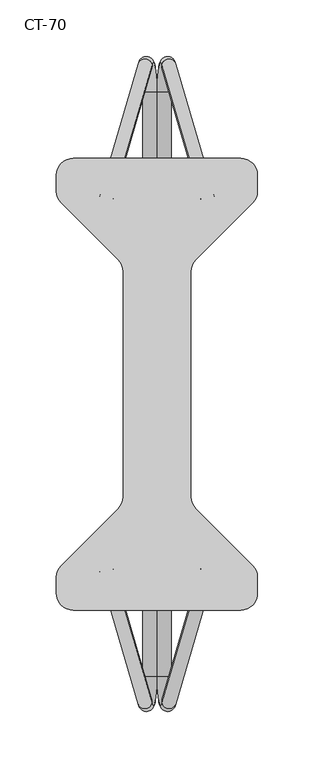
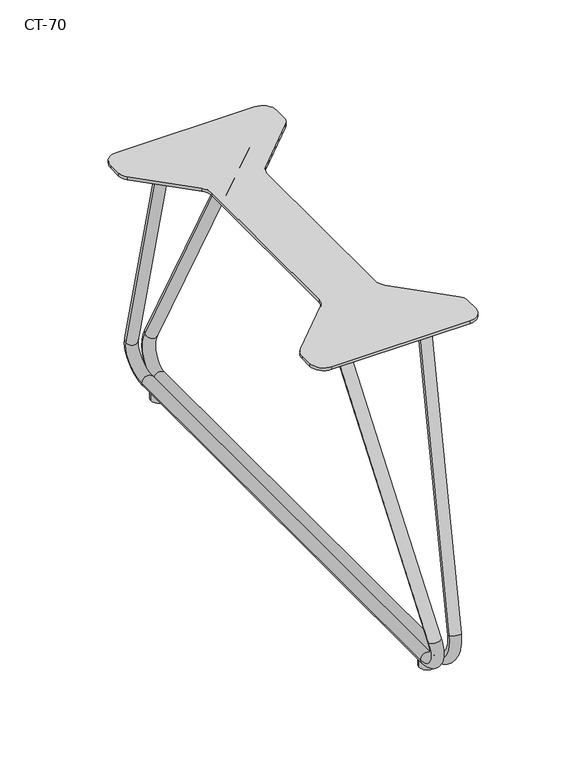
"""IFC4 building model written with IfcOpenShell, lengths in millimetres: furniture geometry, Davis_Furniture-Cantina-Backless_Bench_End : CT-70."""

from ifc_helpers import new_model, si_unit, point, frame, frame_2d, origin, origin_with_axes, place, context, project, spatial, polyline, circle_curve, ellipse_curve, trimmed, segment, composite_curve, outline, extrude, source, transform, mapped, element, save
from ifc_brep_helpers import plane_surface, cylinder_surface, revolved_surface, advanced_brep


def ct_70_d8ba06b4(model_context):
    return source(origin(), model_context, "Body", "SolidModel", [
        advanced_brep(
        [(347.2476455, 282.4506802, 51.3019909), (359.6863293, 281.0225001, 49.1737411), (394.2568189, 162.5458754, 330.7277844), (381.5568189, 164.8696131, 330.7277844), (342.8955294, 258.6649172, 15.8568497), (355.5955294, 258.6649172, 15.8568497), (342.8955294, -258.6649172, 15.8568497), (355.5955294, -258.6649172, 15.8568497), (347.2476455, -282.4506802, 51.3019909), (359.6863293, -281.0225001, 49.1737411), (381.5568189, -164.8696131, 330.7277844), (394.2568189, -162.5458754, 330.7277844)],
        [
            (0, 1, circle_curve(frame((353.4669874, 281.7365901, 50.237866), z_axis=(0.112455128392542, -0.3853952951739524, 0.9158735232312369), x_axis=(-0.9794239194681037, 0.11245512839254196, 0.16757872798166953)), 6.35)),
            (1, 2),
            (2, 3, ellipse_curve(frame((387.9068189, 163.7077443, 330.7277844), z_axis=(0.0, 0.0, -1.0), x_axis=(0.28011057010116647, -0.9599677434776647, 0.0)), 6.9332717, 6.35)),
            (3, 0),
            (1, 0, circle_curve(frame((353.4669874, 281.7365901, 50.237866), z_axis=(0.112455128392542, -0.3853952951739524, 0.9158735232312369), x_axis=(-0.9794239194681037, 0.11245512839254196, 0.16757872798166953)), 6.35)),
            (3, 2, ellipse_curve(frame((387.9068189, 163.7077443, 330.7277844), z_axis=(0.0, 0.0, -1.0), x_axis=(0.28011057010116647, -0.9599677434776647, 0.0)), 6.9332717, 6.35)),
            (0, 4, circle_curve(frame((346.0369549, 258.6649172, 41.4417072), z_axis=(-0.9925461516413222, 0.0, 0.12186934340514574), x_axis=(0.046967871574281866, 0.9227515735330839, 0.38252261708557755)), 25.7769953)),
            (4, 5, circle_curve(frame((349.2455294, 258.6649172, 15.8568497), z_axis=(0.0, 1.0, 0.0), x_axis=(-1.0, 0.0, 0.0)), 6.35)),
            (5, 1, circle_curve(frame((358.5483328, 258.6649172, 39.9055032), z_axis=(0.9925461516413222, 0.0, -0.12186934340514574), x_axis=(0.046967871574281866, 0.9227515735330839, 0.38252261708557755)), 24.2292547)),
            (5, 4, circle_curve(frame((349.2455294, 258.6649172, 15.8568497), z_axis=(0.0, 0.9999999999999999, 0.0), x_axis=(-1.0, 0.0, 0.0)), 6.35)),
            (4, 6),
            (6, 7, circle_curve(frame((349.2455294, -258.6649172, 15.8568497), z_axis=(0.0, 1.0, 0.0), x_axis=(-1.0, 0.0, 0.0)), 6.35)),
            (7, 5),
            (7, 6, circle_curve(frame((349.2455294, -258.6649172, 15.8568497), z_axis=(0.0, 1.0, 0.0), x_axis=(-1.0, 0.0, 0.0)), 6.35)),
            (6, 8, circle_curve(frame((346.0369549, -258.6649172, 41.4417072), z_axis=(-0.9925461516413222, 0.0, 0.12186934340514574), x_axis=(-0.12186934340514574, 0.0, -0.9925461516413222)), 25.7769953)),
            (8, 9, circle_curve(frame((353.4669874, -281.7365901, 50.237866), z_axis=(-0.11245512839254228, -0.3853952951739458, -0.9158735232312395), x_axis=(-0.9794239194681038, -0.1124551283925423, 0.16757872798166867)), 6.35)),
            (9, 7, circle_curve(frame((358.5483328, -258.6649172, 39.9055032), z_axis=(0.9925461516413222, 0.0, -0.12186934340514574), x_axis=(-0.12186934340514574, 0.0, -0.9925461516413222)), 24.2292547)),
            (9, 8, circle_curve(frame((353.4669874, -281.7365901, 50.237866), z_axis=(-0.11245512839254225, -0.3853952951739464, -0.9158735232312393), x_axis=(-0.9794239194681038, -0.11245512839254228, 0.16757872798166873)), 6.35)),
            (8, 10),
            (10, 11, ellipse_curve(frame((387.9068189, -163.7077443, 330.7277844), z_axis=(0.0, 0.0, -1.0), x_axis=(-0.28011057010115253, -0.9599677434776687, 0.0)), 6.9332717, 6.35)),
            (11, 9),
            (11, 10, ellipse_curve(frame((387.9068189, -163.7077443, 330.7277844), z_axis=(0.0, 0.0, -1.0), x_axis=(-0.28011057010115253, -0.9599677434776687, 0.0)), 6.9332717, 6.35)),
        ],
        [
            cylinder_surface(frame((389.0405198, 159.8224344, 339.9610379), z_axis=(0.112455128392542, -0.3853952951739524, 0.9158735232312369), x_axis=(-0.9794239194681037, 0.11245512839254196, 0.16757872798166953)), 6.35),
            revolved_surface(trimmed(ellipse_curve(frame((353.4669874, 281.7365901, 50.237866), z_axis=(0.11245512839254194, -0.38539529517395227, 0.9158735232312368), x_axis=(-0.9794239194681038, 0.112455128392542, 0.1675787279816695)), 6.35, 6.35), [point((347.2476455, 282.4506802, 51.3019909))], [point((359.6863293, 281.0225001, 49.1737411))], True, "CARTESIAN"), (405.2582375, 258.6649172, 34.170248), (-0.9925461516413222, 0.0, 0.12186934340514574)),
            revolved_surface(trimmed(ellipse_curve(frame((353.4669874, 281.7365901, 50.237866), z_axis=(0.11245512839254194, -0.38539529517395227, 0.9158735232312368), x_axis=(-0.9794239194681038, 0.112455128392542, 0.1675787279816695)), 6.35, 6.35), [point((359.6863293, 281.0225001, 49.1737411))], [point((347.2476455, 282.4506802, 51.3019909))], True, "CARTESIAN"), (405.2582375, 258.6649172, 34.170248), (-0.9925461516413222, 0.0, 0.12186934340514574)),
            cylinder_surface(frame((349.2455294, 258.6649172, 15.8568497), z_axis=(0.0, 1.0, 0.0), x_axis=(-1.0, 0.0, 0.0)), 6.35),
            revolved_surface(trimmed(ellipse_curve(frame((349.2455294, -258.6649172, 15.8568497), z_axis=(0.0, 1.0, 0.0), x_axis=(-1.0, 0.0, 0.0)), 6.35, 6.35), [point((342.8955294, -258.6649172, 15.8568497))], [point((355.5955294, -258.6649172, 15.8568497))], True, "CARTESIAN"), (405.2582375, -258.6649172, 34.170248), (-0.9925461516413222, 0.0, 0.12186934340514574)),
            revolved_surface(trimmed(ellipse_curve(frame((349.2455294, -258.6649172, 15.8568497), z_axis=(0.0, 1.0, 0.0), x_axis=(-1.0, 0.0, 0.0)), 6.35, 6.35), [point((355.5955294, -258.6649172, 15.8568497))], [point((342.8955294, -258.6649172, 15.8568497))], True, "CARTESIAN"), (405.2582375, -258.6649172, 34.170248), (-0.9925461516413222, 0.0, 0.12186934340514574)),
            cylinder_surface(frame((353.4669874, -281.7365901, 50.237866), z_axis=(-0.11245512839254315, -0.38539529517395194, -0.9158735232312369), x_axis=(-0.9794239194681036, -0.11245512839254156, 0.1675787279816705)), 6.35),
            plane_surface(frame((282.575, -184.15, 330.7277844), z_axis=(0.0, 0.0, 1.0), x_axis=(0.0, 1.0, 0.0))),
        ],
        [
            (0, [[1, 2, 3, 4]]),
            (0, [[5, -4, 6, -2]]),
            (1, [[-1, 7, 8, 9]]),
            (2, [[-5, -9, 10, -7]]),
            (3, [[-8, 11, 12, 13]]),
            (3, [[-10, -13, 14, -11]]),
            (4, [[-12, 15, 16, 17]]),
            (5, [[-14, -17, 18, -15]]),
            (6, [[-16, 19, 20, 21]]),
            (6, [[-18, -21, 22, -19]]),
            (7, [[-3, -6]]),
            (7, [[-20, -22]]),
        ],
    ),
        advanced_brep(
        [(326.1136707, 281.0225001, 49.1737411), (338.5523545, 282.4506802, 51.3019909), (304.2431811, 164.8696131, 330.7277844), (291.5431811, 162.5458754, 330.7277844), (330.2044706, 258.6649172, 15.8568497), (342.9044706, 258.6649172, 15.8568497), (330.2044706, -258.6649172, 15.8568497), (342.9044706, -258.6649172, 15.8568497), (326.1136707, -281.0225001, 49.1737411), (338.5523545, -282.4506802, 51.3019909), (291.5431811, -162.5458754, 330.7277844), (304.2431811, -164.8696131, 330.7277844)],
        [
            (0, 1, circle_curve(frame((332.3330126, 281.7365901, 50.237866), z_axis=(-0.11245512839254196, -0.38539529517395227, 0.915873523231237), x_axis=(0.9794239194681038, 0.11245512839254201, 0.1675787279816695)), 6.35)),
            (1, 2),
            (2, 3, ellipse_curve(frame((297.8931811, 163.7077443, 330.7277844), z_axis=(0.0, 0.0, -1.0), x_axis=(-0.28011057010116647, -0.9599677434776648, 0.0)), 6.9332717, 6.35)),
            (3, 0),
            (1, 0, circle_curve(frame((332.3330126, 281.7365901, 50.237866), z_axis=(-0.11245512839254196, -0.38539529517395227, 0.915873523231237), x_axis=(0.9794239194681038, 0.11245512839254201, 0.1675787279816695)), 6.35)),
            (3, 2, ellipse_curve(frame((297.8931811, 163.7077443, 330.7277844), z_axis=(0.0, 0.0, -1.0), x_axis=(-0.28011057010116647, -0.9599677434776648, 0.0)), 6.9332717, 6.35)),
            (0, 4, circle_curve(frame((327.2516672, 258.6649172, 39.9055032), z_axis=(-0.9925461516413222, 0.0, -0.12186934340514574), x_axis=(-0.046967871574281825, 0.9227515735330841, 0.38252261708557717)), 24.2292547)),
            (4, 5, circle_curve(frame((336.5544706, 258.6649172, 15.8568497), z_axis=(0.0, 1.0000000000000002, 0.0), x_axis=(1.0, 0.0, 0.0)), 6.35)),
            (5, 1, circle_curve(frame((339.7630451, 258.6649172, 41.4417072), z_axis=(0.9925461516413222, 0.0, 0.12186934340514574), x_axis=(-0.046967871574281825, 0.9227515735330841, 0.38252261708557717)), 25.7769953)),
            (5, 4, circle_curve(frame((336.5544706, 258.6649172, 15.8568497), z_axis=(0.0, 1.0000000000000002, 0.0), x_axis=(1.0, 0.0, 0.0)), 6.35)),
            (4, 6),
            (6, 7, circle_curve(frame((336.5544706, -258.6649172, 15.8568497), z_axis=(0.0, 1.0, 0.0), x_axis=(1.0, 0.0, 0.0)), 6.35)),
            (7, 5),
            (7, 6, circle_curve(frame((336.5544706, -258.6649172, 15.8568497), z_axis=(0.0, 1.0, 0.0), x_axis=(1.0, 0.0, 0.0)), 6.35)),
            (6, 8, circle_curve(frame((327.2516672, -258.6649172, 39.9055032), z_axis=(-0.9925461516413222, 0.0, -0.12186934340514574), x_axis=(0.12186934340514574, 0.0, -0.9925461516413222)), 24.2292547)),
            (8, 9, circle_curve(frame((332.3330126, -281.7365901, 50.237866), z_axis=(0.11245512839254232, -0.3853952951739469, -0.915873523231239), x_axis=(0.9794239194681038, -0.11245512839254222, 0.1675787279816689)), 6.35)),
            (9, 7, circle_curve(frame((339.7630451, -258.6649172, 41.4417072), z_axis=(0.9925461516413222, 0.0, 0.12186934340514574), x_axis=(0.12186934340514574, 0.0, -0.9925461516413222)), 25.7769953)),
            (9, 8, circle_curve(frame((332.3330126, -281.7365901, 50.237866), z_axis=(0.11245512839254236, -0.3853952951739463, -0.9158735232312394), x_axis=(0.9794239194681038, -0.11245512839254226, 0.1675787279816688)), 6.35)),
            (8, 10),
            (10, 11, ellipse_curve(frame((297.8931811, -163.7077443, 330.7277844), z_axis=(0.0, 0.0, -1.0), x_axis=(0.2801105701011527, -0.9599677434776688, 0.0)), 6.9332717, 6.35)),
            (11, 9),
            (11, 10, ellipse_curve(frame((297.8931811, -163.7077443, 330.7277844), z_axis=(0.0, 0.0, -1.0), x_axis=(0.2801105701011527, -0.9599677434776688, 0.0)), 6.9332717, 6.35)),
        ],
        [
            cylinder_surface(frame((296.7594802, 159.8224344, 339.9610379), z_axis=(-0.11245512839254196, -0.38539529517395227, 0.915873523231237), x_axis=(0.9794239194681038, 0.11245512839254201, 0.1675787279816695)), 6.35),
            revolved_surface(trimmed(ellipse_curve(frame((332.3330126, 281.7365901, 50.237866), z_axis=(-0.11245512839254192, -0.385395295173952, 0.9158735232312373), x_axis=(0.9794239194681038, 0.11245512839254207, 0.1675787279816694)), 6.35, 6.35), [point((326.1136707, 281.0225001, 49.1737411))], [point((338.5523545, 282.4506802, 51.3019909))], True, "CARTESIAN"), (280.5417625, 258.6649172, 34.170248), (-0.9925461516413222, 0.0, -0.12186934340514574)),
            revolved_surface(trimmed(ellipse_curve(frame((332.3330126, 281.7365901, 50.237866), z_axis=(-0.11245512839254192, -0.385395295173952, 0.9158735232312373), x_axis=(0.9794239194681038, 0.11245512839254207, 0.1675787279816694)), 6.35, 6.35), [point((338.5523545, 282.4506802, 51.3019909))], [point((326.1136707, 281.0225001, 49.1737411))], True, "CARTESIAN"), (280.5417625, 258.6649172, 34.170248), (-0.9925461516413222, 0.0, -0.12186934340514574)),
            cylinder_surface(frame((336.5544706, 258.6649172, 15.8568497), z_axis=(0.0, 1.0, 0.0), x_axis=(1.0, 0.0, 0.0)), 6.35),
            revolved_surface(trimmed(ellipse_curve(frame((336.5544706, -258.6649172, 15.8568497), z_axis=(0.0, 1.0, 0.0), x_axis=(1.0, 0.0, 0.0)), 6.35, 6.35), [point((330.2044706, -258.6649172, 15.8568497))], [point((342.9044706, -258.6649172, 15.8568497))], True, "CARTESIAN"), (280.5417625, -258.6649172, 34.170248), (-0.9925461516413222, 0.0, -0.12186934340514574)),
            revolved_surface(trimmed(ellipse_curve(frame((336.5544706, -258.6649172, 15.8568497), z_axis=(0.0, 1.0, 0.0), x_axis=(1.0, 0.0, 0.0)), 6.35, 6.35), [point((342.9044706, -258.6649172, 15.8568497))], [point((330.2044706, -258.6649172, 15.8568497))], True, "CARTESIAN"), (280.5417625, -258.6649172, 34.170248), (-0.9925461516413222, 0.0, -0.12186934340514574)),
            cylinder_surface(frame((332.3330126, -281.7365901, 50.237866), z_axis=(0.11245512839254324, -0.38539529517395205, -0.9158735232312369), x_axis=(0.9794239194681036, -0.11245512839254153, 0.16757872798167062)), 6.35),
            plane_surface(frame((282.575, -184.15, 330.7277844), z_axis=(0.0, 0.0, 1.0), x_axis=(0.0, 1.0, 0.0))),
        ],
        [
            (0, [[1, 2, 3, 4]]),
            (0, [[5, -4, 6, -2]]),
            (1, [[-1, 7, 8, 9]]),
            (2, [[-5, -9, 10, -7]]),
            (3, [[-8, 11, 12, 13]]),
            (3, [[-10, -13, 14, -11]]),
            (4, [[-12, 15, 16, 17]]),
            (5, [[-14, -17, 18, -15]]),
            (6, [[-16, 19, 20, 21]]),
            (6, [[-18, -21, 22, -19]]),
            (7, [[-3, -6]]),
            (7, [[-20, -22]]),
        ],
    ),
        extrude(outline(composite_curve([segment(trimmed(circle_curve(frame_2d((416.9179687, 184.8179689)), 14.9820313), [point((416.9179687, 199.8000002))], [point((431.8999999, 184.8179689))], False, "CARTESIAN"), True, "CONTINUOUS"), segment(polyline([(431.8999999, 184.8179689), (431.8999999, 170.3884193)]), True, "CONTINUOUS"), segment(trimmed(circle_curve(frame_2d((417.8936443, 170.3884193)), 14.0063557), [point((431.8999999, 170.3884193))], [point((427.7976333, 160.4844302))], False, "CARTESIAN"), True, "CONTINUOUS"), segment(polyline([(427.7976333, 160.4844302), (377.2009538, 109.8877506)]), True, "CONTINUOUS"), segment(trimmed(circle_curve(frame_2d((387.5843749, 99.5043295)), 14.684375), [point((377.2009538, 109.8877506))], [point((372.8999999, 99.5043295))], True, "CARTESIAN"), True, "CONTINUOUS"), segment(polyline([(372.8999999, 99.5043295), (372.8999999, -99.9043293)]), True, "CONTINUOUS"), segment(trimmed(circle_curve(frame_2d((387.5843749, -99.9043293)), 14.684375), [point((372.8999999, -99.9043293))], [point((377.2009538, -110.2877505))], True, "CARTESIAN"), True, "CONTINUOUS"), segment(polyline([(377.2009538, -110.2877505), (427.7976333, -160.88443)]), True, "CONTINUOUS"), segment(trimmed(circle_curve(frame_2d((417.8936443, -170.7884191)), 14.0063557), [point((427.7976333, -160.88443))], [point((431.8999999, -170.7884191))], False, "CARTESIAN"), True, "CONTINUOUS"), segment(polyline([(431.8999999, -170.7884191), (431.8999999, -185.2179688)]), True, "CONTINUOUS"), segment(trimmed(circle_curve(frame_2d((416.9179687, -185.2179688)), 14.9820312), [point((431.8999999, -185.2179688))], [point((416.9179687, -200.2))], False, "CARTESIAN"), True, "CONTINUOUS"), segment(polyline([(416.9179687, -200.2), (268.8566061, -200.2)]), True, "CONTINUOUS"), segment(trimmed(circle_curve(frame_2d((268.8566061, -185.243394)), 14.956606), [point((268.8566061, -200.2))], [point((253.9000001, -185.243394))], False, "CARTESIAN"), True, "CONTINUOUS"), segment(polyline([(253.9000001, -185.243394), (253.9000001, -170.7815796)]), True, "CONTINUOUS"), segment(trimmed(circle_curve(frame_2d((267.8898438, -170.7815796)), 13.9898437), [point((253.9000001, -170.7815796))], [point((257.9975304, -160.8892662))], False, "CARTESIAN"), True, "CONTINUOUS"), segment(polyline([(257.9975304, -160.8892662), (308.5990462, -110.2877505)]), True, "CONTINUOUS"), segment(trimmed(circle_curve(frame_2d((298.2156251, -99.9043293)), 14.684375), [point((308.5990462, -110.2877505))], [point((312.9000001, -99.9043293))], True, "CARTESIAN"), True, "CONTINUOUS"), segment(polyline([(312.9000001, -99.9043293), (312.9000001, 99.5195697)]), True, "CONTINUOUS"), segment(trimmed(circle_curve(frame_2d((298.2524182, 99.5195697)), 14.6475818), [point((312.9000001, 99.5195697))], [point((308.6098227, 109.8769742))], True, "CARTESIAN"), True, "CONTINUOUS"), segment(polyline([(308.6098227, 109.8769742), (257.9975304, 160.4892664)]), True, "CONTINUOUS"), segment(trimmed(circle_curve(frame_2d((267.8898438, 170.3815798)), 13.9898437), [point((257.9975304, 160.4892664))], [point((253.9000001, 170.3815798))], False, "CARTESIAN"), True, "CONTINUOUS"), segment(polyline([(253.9000001, 170.3815798), (253.9000001, 184.8433942)]), True, "CONTINUOUS"), segment(trimmed(circle_curve(frame_2d((268.8566061, 184.8433942)), 14.956606), [point((253.9000001, 184.8433942))], [point((268.8566061, 199.8000002))], False, "CARTESIAN"), True, "CONTINUOUS"), segment(polyline([(268.8566061, 199.8000002), (416.9179687, 199.8000002)]), True, "CONTINUOUS")], self_intersect=False)), frame((0.0, 0.0, 330.7277844), z_axis=(0.0, 0.0, 1.0), x_axis=(1.0, 0.0, 0.0)), (0.0, 0.0, 1.0), 3.1724353),
        extrude(outline(composite_curve([segment(trimmed(circle_curve(frame_2d((342.9, -249.0853635)), 8.5328125), [point((334.3671875, -249.0853635))], [point((351.4328125, -249.0853635))], False, "CARTESIAN"), True, "CONTINUOUS"), segment(trimmed(circle_curve(frame_2d((342.9, -249.0853635)), 8.5328125), [point((351.4328125, -249.0853635))], [point((334.3671875, -249.0853635))], False, "CARTESIAN"), True, "CONTINUOUS")], self_intersect=False)), origin_with_axes(), (0.0, 0.0, 1.0), 9.5168817),
        extrude(outline(composite_curve([segment(trimmed(circle_curve(frame_2d((342.9, 249.0853635)), 8.5328125), [point((334.3671875, 249.0853635))], [point((351.4328125, 249.0853635))], False, "CARTESIAN"), True, "CONTINUOUS"), segment(trimmed(circle_curve(frame_2d((342.9, 249.0853635)), 8.5328125), [point((351.4328125, 249.0853635))], [point((334.3671875, 249.0853635))], False, "CARTESIAN"), True, "CONTINUOUS")], self_intersect=False)), origin_with_axes(), (0.0, 0.0, 1.0), 9.5168817),
    ])


if __name__ == "__main__":
    model = new_model("IFC4")
    model_context = context("Model", 3, world=origin())
    ifc_project = project(units=[si_unit("LENGTHUNIT", "METRE", prefix="MILLI")], contexts=[model_context])
    site = spatial("IfcSite", under=ifc_project)
    building = spatial("IfcBuilding", under=site)
    placement = place(None, origin())
    ct_70_shape = ct_70_d8ba06b4(model_context)
    element("IfcFurniture", 1, ObjectType="Davis_Furniture-Cantina-Backless_Bench_End : CT-70", at=placement, inside=building, context=model_context, shape_type="MappedRepresentation", body=[
        mapped(ct_70_shape, transform((0.0, 0.0, 0.0), x_axis=(1.0, 0.0, 0.0), y_axis=(0.0, 1.0, 0.0), z_axis=(0.0, 0.0, 1.0))),
    ])
    save(model, "model.ifc")
